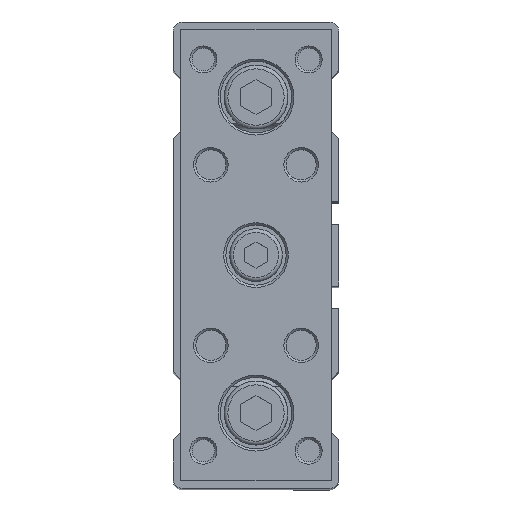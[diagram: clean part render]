
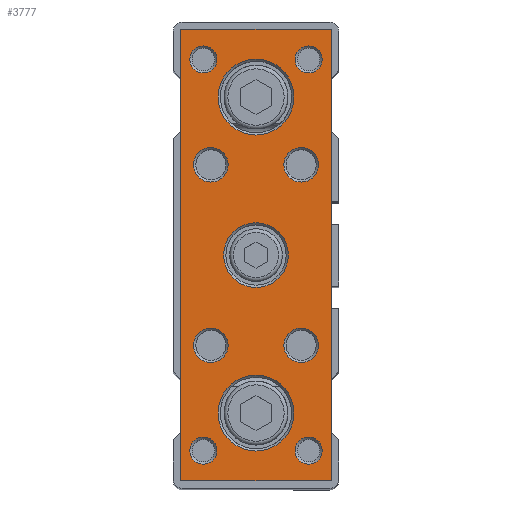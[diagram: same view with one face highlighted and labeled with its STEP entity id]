
A CAD part, top view. The second image highlights one B-rep face of the part: STEP entity #3777.
In plain terms, the highlighted planar face has unit normal (0, 0, 1).
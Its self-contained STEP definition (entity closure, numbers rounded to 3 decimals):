
#3266=CARTESIAN_POINT('',(10.,30.0,10.0));
#3267=VERTEX_POINT('',#3266);
#3268=CARTESIAN_POINT('',(10.,-30.0,10.0));
#3269=VERTEX_POINT('',#3268);
#3270=CARTESIAN_POINT('',(10.,30.0,10.0));
#3271=DIRECTION('',(0.0,-1.0,0.0));
#3272=VECTOR('',#3271,60.0);
#3273=LINE('',#3270,#3272);
#3274=EDGE_CURVE('',#3267,#3269,#3273,.T.);
#3554=CARTESIAN_POINT('',(-10.,-30.0,10.0));
#3555=VERTEX_POINT('',#3554);
#3556=CARTESIAN_POINT('',(-10.,30.0,10.0));
#3557=VERTEX_POINT('',#3556);
#3558=CARTESIAN_POINT('',(-10.,-30.0,10.0));
#3559=DIRECTION('',(0.0,1.0,0.0));
#3560=VECTOR('',#3559,60.0);
#3561=LINE('',#3558,#3560);
#3562=EDGE_CURVE('',#3555,#3557,#3561,.T.);
#3631=CARTESIAN_POINT('',(4.3,0.,10.0));
#3632=VERTEX_POINT('',#3631);
#3633=CARTESIAN_POINT('',(0.0,0.0,10.0));
#3634=DIRECTION('',(0.0,0.0,1.0));
#3635=DIRECTION('',(-1.0,0.0,0.0));
#3636=AXIS2_PLACEMENT_3D('',#3633,#3634,#3635);
#3637=CIRCLE('',#3636,4.3);
#3638=EDGE_CURVE('',#3632,#3632,#3637,.T.);
#3643=CARTESIAN_POINT('',(0.0,0.,10.0));
#3644=DIRECTION('',(0.0,0.0,1.0));
#3645=DIRECTION('',(1.0,0.0,0.0));
#3646=AXIS2_PLACEMENT_3D('',#3643,#3644,#3645);
#3647=PLANE('',#3646);
#3648=ORIENTED_EDGE('',*,*,#3274,.F.);
#3649=CARTESIAN_POINT('',(-10.,30.0,10.0));
#3650=DIRECTION('',(1.0,0.0,0.0));
#3651=VECTOR('',#3650,20.);
#3652=LINE('',#3649,#3651);
#3653=EDGE_CURVE('',#3557,#3267,#3652,.T.);
#3654=ORIENTED_EDGE('',*,*,#3653,.F.);
#3655=ORIENTED_EDGE('',*,*,#3562,.F.);
#3656=CARTESIAN_POINT('',(10.,-30.0,10.0));
#3657=DIRECTION('',(-1.0,0.0,0.0));
#3658=VECTOR('',#3657,20.);
#3659=LINE('',#3656,#3658);
#3660=EDGE_CURVE('',#3269,#3555,#3659,.T.);
#3661=ORIENTED_EDGE('',*,*,#3660,.F.);
#3662=EDGE_LOOP('',(#3648,#3654,#3655,#3661));
#3663=FACE_OUTER_BOUND('',#3662,.T.);
#3664=CARTESIAN_POINT('',(5.05,-21.0,10.0));
#3665=VERTEX_POINT('',#3664);
#3666=CARTESIAN_POINT('',(0.0,-21.0,10.0));
#3667=DIRECTION('',(0.0,0.0,1.0));
#3668=DIRECTION('',(-1.0,0.0,0.0));
#3669=AXIS2_PLACEMENT_3D('',#3666,#3667,#3668);
#3670=CIRCLE('',#3669,5.05);
#3671=EDGE_CURVE('',#3665,#3665,#3670,.T.);
#3672=ORIENTED_EDGE('',*,*,#3671,.F.);
#3673=EDGE_LOOP('',(#3672));
#3674=FACE_BOUND('',#3673,.T.);
#3675=CARTESIAN_POINT('',(8.8,-26.0,10.0));
#3676=VERTEX_POINT('',#3675);
#3677=CARTESIAN_POINT('',(7.,-26.0,10.0));
#3678=DIRECTION('',(0.0,0.0,1.0));
#3679=DIRECTION('',(-1.0,0.0,0.0));
#3680=AXIS2_PLACEMENT_3D('',#3677,#3678,#3679);
#3681=CIRCLE('',#3680,1.8);
#3682=EDGE_CURVE('',#3676,#3676,#3681,.T.);
#3683=ORIENTED_EDGE('',*,*,#3682,.F.);
#3684=EDGE_LOOP('',(#3683));
#3685=FACE_BOUND('',#3684,.T.);
#3686=CARTESIAN_POINT('',(8.8,26.0,10.0));
#3687=VERTEX_POINT('',#3686);
#3688=CARTESIAN_POINT('',(7.,26.0,10.0));
#3689=DIRECTION('',(0.0,0.0,1.0));
#3690=DIRECTION('',(-1.0,0.0,0.0));
#3691=AXIS2_PLACEMENT_3D('',#3688,#3689,#3690);
#3692=CIRCLE('',#3691,1.8);
#3693=EDGE_CURVE('',#3687,#3687,#3692,.T.);
#3694=ORIENTED_EDGE('',*,*,#3693,.F.);
#3695=EDGE_LOOP('',(#3694));
#3696=FACE_BOUND('',#3695,.T.);
#3697=CARTESIAN_POINT('',(-5.2,-26.0,10.0));
#3698=VERTEX_POINT('',#3697);
#3699=CARTESIAN_POINT('',(-7.,-26.0,10.0));
#3700=DIRECTION('',(0.0,0.0,1.0));
#3701=DIRECTION('',(-1.0,0.0,0.0));
#3702=AXIS2_PLACEMENT_3D('',#3699,#3700,#3701);
#3703=CIRCLE('',#3702,1.8);
#3704=EDGE_CURVE('',#3698,#3698,#3703,.T.);
#3705=ORIENTED_EDGE('',*,*,#3704,.F.);
#3706=EDGE_LOOP('',(#3705));
#3707=FACE_BOUND('',#3706,.T.);
#3708=CARTESIAN_POINT('',(-3.7,12.,10.0));
#3709=VERTEX_POINT('',#3708);
#3710=CARTESIAN_POINT('',(-6.,12.,10.0));
#3711=DIRECTION('',(0.0,0.0,1.0));
#3712=DIRECTION('',(-1.0,0.0,0.0));
#3713=AXIS2_PLACEMENT_3D('',#3710,#3711,#3712);
#3714=CIRCLE('',#3713,2.3);
#3715=EDGE_CURVE('',#3709,#3709,#3714,.T.);
#3716=ORIENTED_EDGE('',*,*,#3715,.F.);
#3717=EDGE_LOOP('',(#3716));
#3718=FACE_BOUND('',#3717,.T.);
#3719=CARTESIAN_POINT('',(-5.2,26.0,10.0));
#3720=VERTEX_POINT('',#3719);
#3721=CARTESIAN_POINT('',(-7.,26.0,10.0));
#3722=DIRECTION('',(0.0,0.0,1.0));
#3723=DIRECTION('',(-1.0,0.0,0.0));
#3724=AXIS2_PLACEMENT_3D('',#3721,#3722,#3723);
#3725=CIRCLE('',#3724,1.8);
#3726=EDGE_CURVE('',#3720,#3720,#3725,.T.);
#3727=ORIENTED_EDGE('',*,*,#3726,.F.);
#3728=EDGE_LOOP('',(#3727));
#3729=FACE_BOUND('',#3728,.T.);
#3730=CARTESIAN_POINT('',(-3.7,-12.,10.0));
#3731=VERTEX_POINT('',#3730);
#3732=CARTESIAN_POINT('',(-6.,-12.,10.0));
#3733=DIRECTION('',(0.0,0.0,1.0));
#3734=DIRECTION('',(-1.0,0.0,0.0));
#3735=AXIS2_PLACEMENT_3D('',#3732,#3733,#3734);
#3736=CIRCLE('',#3735,2.3);
#3737=EDGE_CURVE('',#3731,#3731,#3736,.T.);
#3738=ORIENTED_EDGE('',*,*,#3737,.F.);
#3739=EDGE_LOOP('',(#3738));
#3740=FACE_BOUND('',#3739,.T.);
#3741=CARTESIAN_POINT('',(8.3,-12.,10.0));
#3742=VERTEX_POINT('',#3741);
#3743=CARTESIAN_POINT('',(6.,-12.,10.0));
#3744=DIRECTION('',(0.0,0.0,1.0));
#3745=DIRECTION('',(-1.0,0.0,0.0));
#3746=AXIS2_PLACEMENT_3D('',#3743,#3744,#3745);
#3747=CIRCLE('',#3746,2.3);
#3748=EDGE_CURVE('',#3742,#3742,#3747,.T.);
#3749=ORIENTED_EDGE('',*,*,#3748,.F.);
#3750=EDGE_LOOP('',(#3749));
#3751=FACE_BOUND('',#3750,.T.);
#3752=CARTESIAN_POINT('',(8.3,12.,10.0));
#3753=VERTEX_POINT('',#3752);
#3754=CARTESIAN_POINT('',(6.,12.,10.0));
#3755=DIRECTION('',(0.0,0.0,1.0));
#3756=DIRECTION('',(-1.0,0.0,0.0));
#3757=AXIS2_PLACEMENT_3D('',#3754,#3755,#3756);
#3758=CIRCLE('',#3757,2.3);
#3759=EDGE_CURVE('',#3753,#3753,#3758,.T.);
#3760=ORIENTED_EDGE('',*,*,#3759,.F.);
#3761=EDGE_LOOP('',(#3760));
#3762=FACE_BOUND('',#3761,.T.);
#3763=CARTESIAN_POINT('',(5.05,21.0,10.0));
#3764=VERTEX_POINT('',#3763);
#3765=CARTESIAN_POINT('',(0.0,21.0,10.0));
#3766=DIRECTION('',(0.0,0.0,1.0));
#3767=DIRECTION('',(-1.0,0.0,0.0));
#3768=AXIS2_PLACEMENT_3D('',#3765,#3766,#3767);
#3769=CIRCLE('',#3768,5.05);
#3770=EDGE_CURVE('',#3764,#3764,#3769,.T.);
#3771=ORIENTED_EDGE('',*,*,#3770,.F.);
#3772=EDGE_LOOP('',(#3771));
#3773=FACE_BOUND('',#3772,.T.);
#3774=ORIENTED_EDGE('',*,*,#3638,.F.);
#3775=EDGE_LOOP('',(#3774));
#3776=FACE_BOUND('',#3775,.T.);
#3777=ADVANCED_FACE('',(#3663,#3674,#3685,#3696,#3707,#3718,#3729,#3740,#3751,#3762,#3773,#3776),#3647,.T.);
